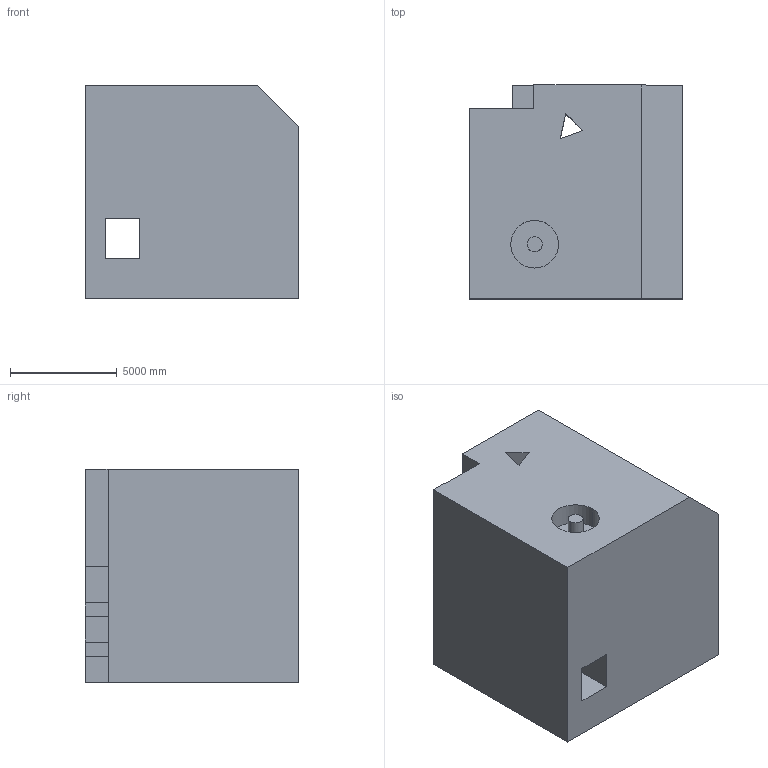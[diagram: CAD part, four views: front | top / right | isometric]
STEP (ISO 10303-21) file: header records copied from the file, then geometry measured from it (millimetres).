
FILE_DESCRIPTION (( 'STEP AP203' ), '1' );
FILE_NAME ('388.STEP', '2022-09-07T13:27:25', ( 'user' ), ( '' ), 'SwSTEP 2.0', 'SolidWorks 2021', '' );
FILE_SCHEMA (( 'CONFIG_CONTROL_DESIGN' ));
Length unit declared in the file: centimetre
Products named in the file (1): 388
Bounding box: 10000 x 10000 x 10000 mm (x, y, z)
Volume: 873792147977.9 mm3; surface area: 756380041.3 mm2
Topology: 1 solids, 1 shells, 51 faces, 144 edges, 96 vertices
Faces by surface type: plane 45, cylinder 6
Entity records: 1719 total; most frequent: CARTESIAN_POINT 292, ORIENTED_EDGE 288, DIRECTION 260, EDGE_CURVE 144, LINE 132, VECTOR 132, VERTEX_POINT 96, AXIS2_PLACEMENT_3D 64
